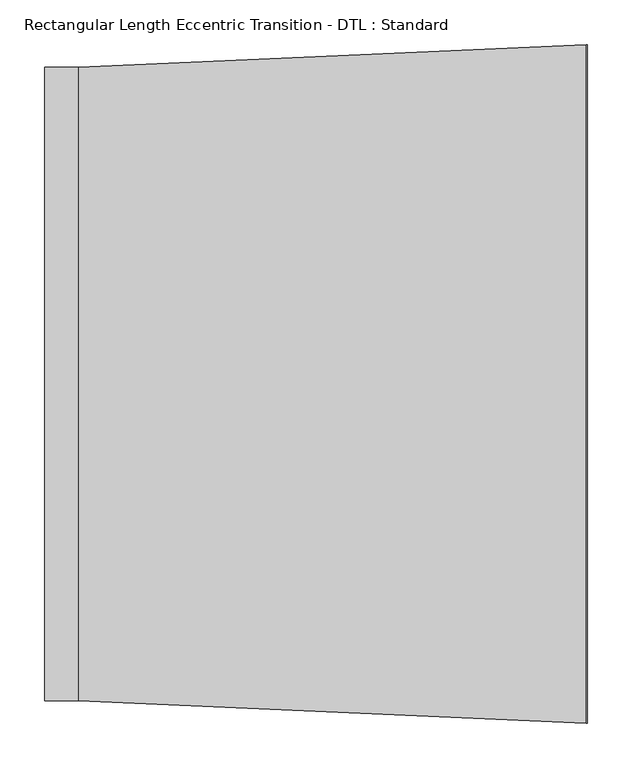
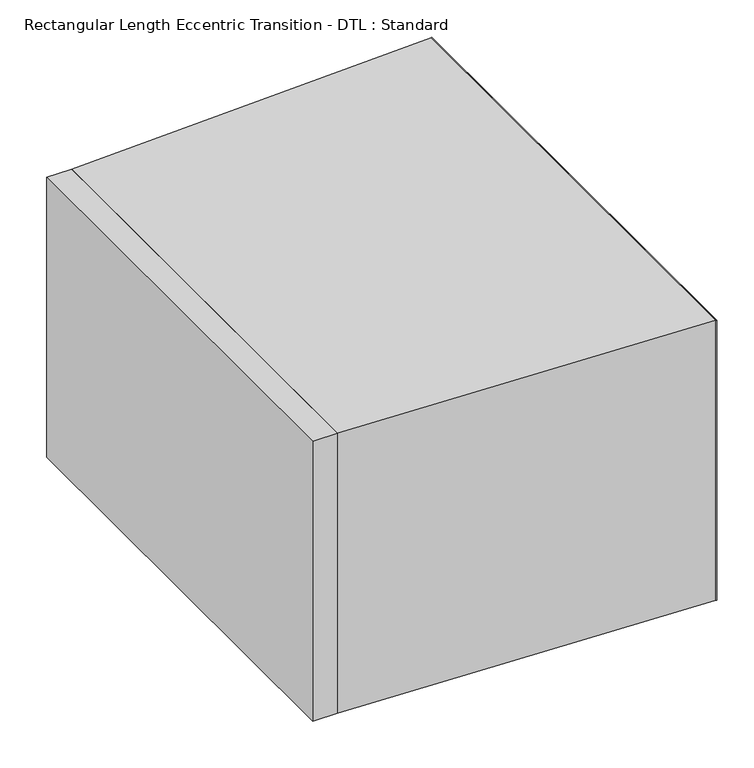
"""IFC4 building model written with IfcOpenShell, lengths in millimetres: duct fitting geometry, Rectangular Length Eccentric Transition - DTL : Standard."""

from ifc_helpers import new_model, si_unit, frame, origin, place, context, project, spatial, polyline, outline, extrude, source, transform, mapped, element, save


def rectangular_length_eccentric_transition_dtl_standard_cac19188(model_context):
    return source(origin(), model_context, "Body", "SweptSolid", [
        extrude(outline(polyline([(609.6, 381.0), (609.6, -381.0), (608.80625, -381.0), (608.80625, 381.0), (609.6, 381.0)])), frame((0.0, 0.0, -228.6), z_axis=(0.0, 0.0, 1.0), x_axis=(1.0, 0.0, 0.0)), (0.0, 0.0, 1.0), 457.2),
        extrude(outline(polyline([(38.1, 355.6), (38.1, -355.6), (0.0, -355.6), (0.0, 355.6), (38.1, 355.6)])), frame((0.0, 0.0, -228.6), z_axis=(0.0, 0.0, 1.0), x_axis=(1.0, 0.0, 0.0)), (0.0, 0.0, 1.0), 457.2),
        extrude(outline(polyline([(608.80625, 381.0), (608.80625, -381.0), (38.1, -355.6), (38.1, 355.6), (608.80625, 381.0)])), frame((0.0, 0.0, -228.6), z_axis=(0.0, 0.0, 1.0), x_axis=(1.0, 0.0, 0.0)), (0.0, 0.0, 1.0), 457.2),
    ])


if __name__ == "__main__":
    model = new_model("IFC4")
    model_context = context("Model", 3, world=origin())
    ifc_project = project(units=[si_unit("LENGTHUNIT", "METRE", prefix="MILLI")], contexts=[model_context])
    site = spatial("IfcSite", under=ifc_project)
    building = spatial("IfcBuilding", under=site)
    placement = place(None, origin())
    rectangular_length_eccentric_transition_dtl_standard_shape = rectangular_length_eccentric_transition_dtl_standard_cac19188(model_context)
    element("IfcDuctFitting", 1, ObjectType="Rectangular Length Eccentric Transition - DTL : Standard", at=placement, inside=building, context=model_context, shape_type="MappedRepresentation", body=[
        mapped(rectangular_length_eccentric_transition_dtl_standard_shape, transform((0.0, 0.0, 0.0), x_axis=(1.0, 0.0, 0.0), y_axis=(0.0, 1.0, 0.0), z_axis=(0.0, 0.0, 1.0))),
    ])
    save(model, "model.ifc")
